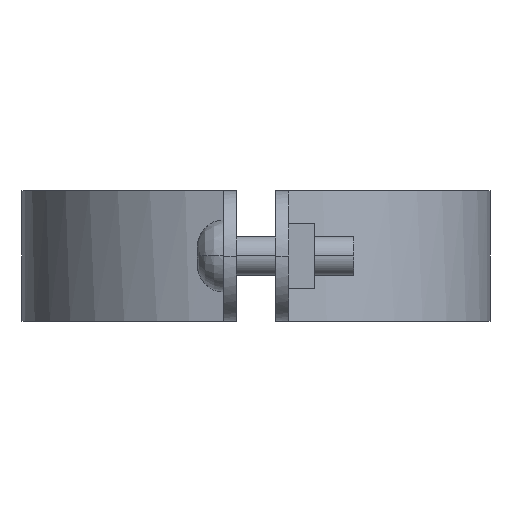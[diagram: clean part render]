
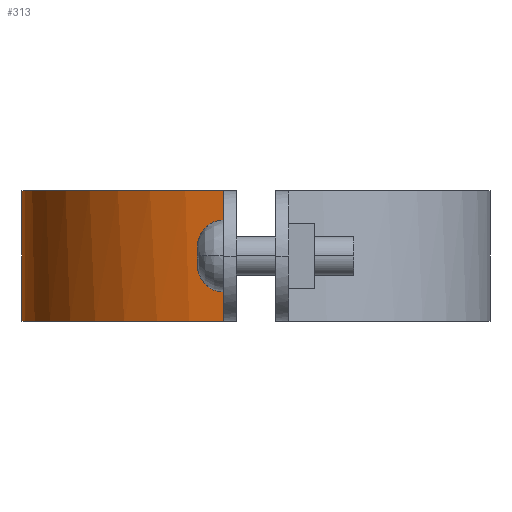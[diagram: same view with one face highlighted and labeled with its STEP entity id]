
A CAD part, left-side view. The second image highlights one B-rep face of the part: STEP entity #313.
In plain terms, the highlighted free-form (B-spline) face has degree [3, 1] with [4, 2] control points.
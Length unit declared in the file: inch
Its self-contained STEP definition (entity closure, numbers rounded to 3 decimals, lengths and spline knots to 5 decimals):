
#313=ADVANCED_FACE('',(#829),#830,.T.);
#333=EDGE_CURVE('',#867,#868,#869,.T.);
#335=EDGE_CURVE('',#871,#868,#872,.T.);
#411=EDGE_CURVE('',#993,#867,#994,.T.);
#541=EDGE_CURVE('',#871,#993,#1177,.T.);
#829=FACE_OUTER_BOUND('',#1533,.T.);
#830=B_SPLINE_SURFACE_WITH_KNOTS('',3,1,((#1534,#1535),(#1536,#1537),(#1538,#1539),(#1540,#1541)),.UNSPECIFIED.,.F.,.F.,.F.,(4,4),(2,2),(-1.0,-0.0),(0.0,1.25),.UNSPECIFIED.);
#867=VERTEX_POINT('',#1596);
#868=VERTEX_POINT('',#1597);
#869=B_SPLINE_CURVE_WITH_KNOTS('',3,(#1598,#1599,#1600,#1601),.UNSPECIFIED.,.F.,.F.,(4,4),(0.0,1.0),.UNSPECIFIED.);
#871=VERTEX_POINT('',#1604);
#872=LINE('',#1605,#1606);
#993=VERTEX_POINT('',#1907);
#994=LINE('',#1908,#1909);
#1177=B_SPLINE_CURVE_WITH_KNOTS('',3,(#2228,#2229,#2230,#2231),.UNSPECIFIED.,.F.,.F.,(4,4),(-1.0,-0.0),.UNSPECIFIED.);
#1533=EDGE_LOOP('',(#3026,#3027,#3028,#3029));
#1534=CARTESIAN_POINT('',(2.93573,4.52418,0.0));
#1535=CARTESIAN_POINT('',(2.93573,4.52418,1.25));
#1536=CARTESIAN_POINT('',(1.81528,4.52418,0.0));
#1537=CARTESIAN_POINT('',(1.81528,4.52418,1.25));
#1538=CARTESIAN_POINT('',(0.86603,3.69876,0.0));
#1539=CARTESIAN_POINT('',(0.86603,3.69876,1.25));
#1540=CARTESIAN_POINT('',(0.71041,2.58917,0.0));
#1541=CARTESIAN_POINT('',(0.71041,2.58917,1.25));
#1596=CARTESIAN_POINT('',(0.71041,2.58917,1.24992));
#1597=CARTESIAN_POINT('',(2.93573,4.52418,1.24992));
#1598=CARTESIAN_POINT('',(0.71041,2.58917,1.24992));
#1599=CARTESIAN_POINT('',(0.86603,3.69876,1.24992));
#1600=CARTESIAN_POINT('',(1.81528,4.52418,1.24992));
#1601=CARTESIAN_POINT('',(2.93573,4.52418,1.24992));
#1604=CARTESIAN_POINT('',(2.93573,4.52418,0.00012));
#1605=CARTESIAN_POINT('',(2.93573,4.52418,0.0));
#1606=VECTOR('',#3051,1.0);
#1907=CARTESIAN_POINT('',(0.71041,2.58917,0.00012));
#1908=CARTESIAN_POINT('',(0.71041,2.58917,0.0));
#1909=VECTOR('',#3170,1.0);
#2228=CARTESIAN_POINT('',(2.93573,4.52418,0.00012));
#2229=CARTESIAN_POINT('',(1.81528,4.52418,0.00012));
#2230=CARTESIAN_POINT('',(0.86603,3.69876,0.00012));
#2231=CARTESIAN_POINT('',(0.71041,2.58917,0.00012));
#3026=ORIENTED_EDGE('',*,*,#333,.T.);
#3027=ORIENTED_EDGE('',*,*,#335,.F.);
#3028=ORIENTED_EDGE('',*,*,#541,.T.);
#3029=ORIENTED_EDGE('',*,*,#411,.T.);
#3051=DIRECTION('',(0.0,0.0,1.0));
#3170=DIRECTION('',(0.0,0.0,1.0));
